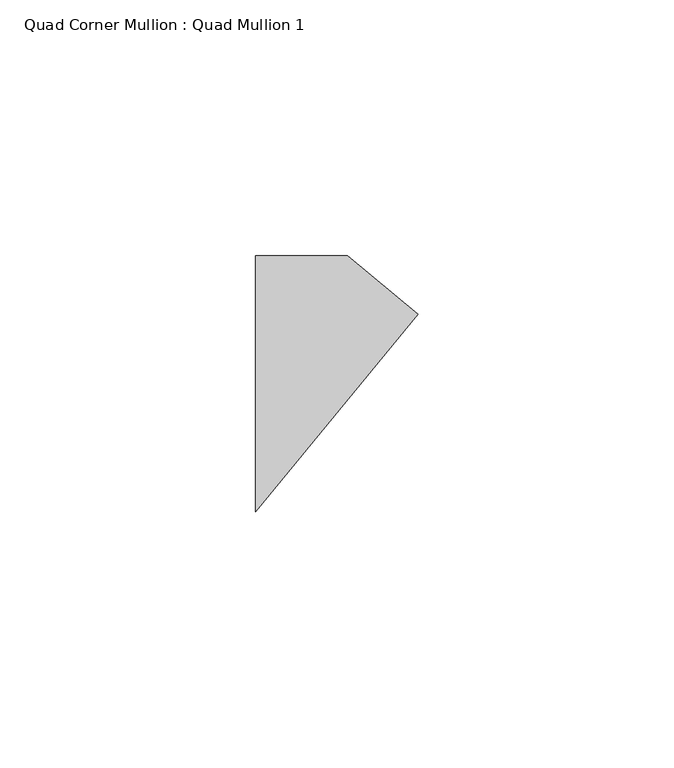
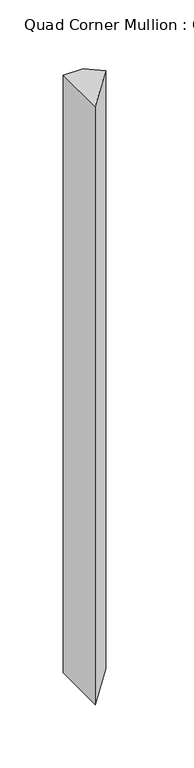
"""IFC4 building model written with IfcOpenShell, lengths in millimetres: member geometry, Quad Corner Mullion : Quad Mullion 1."""

import ifcopenshell
import ifcopenshell.guid

model = None  # the IFC model being written
_history = None  # IfcOwnerHistory: only IFC2X3 demands one
_inside = {}  # id of a spatial element -> (the spatial element, [elements in it])
_under = {}  # id of a project, library or spatial element -> (it, [spatial elements below it])
_declared = {}  # id of a project -> (the project, [libraries it declares])
_typed = {}  # id of a type object -> (the type object, [elements of that type])
_made_of = {}  # id of a material, layer set ... -> (it, [elements and type objects made of it])


def new_model(schema):
    """Start an empty IFC model of exactly this schema.

    Asked for "IFC4X3", IfcOpenShell would pick the latest addendum, in which some entities
    have other attributes; the version numbers below select the first issue.
    IFC2X3 requires an IfcOwnerHistory on every rooted entity: one is made here for all.
    """
    global model, _history
    if schema == "IFC4X3":
        model = ifcopenshell.file(schema_version=(4, 3, 0, 0))
    else:
        model = ifcopenshell.file(schema=schema)
    _inside.clear()
    _under.clear()
    _declared.clear()
    _typed.clear()
    _made_of.clear()
    _history = None
    if model.schema == "IFC2X3":
        org = make("IfcOrganization", Name="unknown")
        user = make(
            "IfcPersonAndOrganization",
            ThePerson=make("IfcPerson", FamilyName="unknown"),
            TheOrganization=org,
        )
        app = make(
            "IfcApplication",
            ApplicationDeveloper=org,
            Version="unknown",
            ApplicationFullName="unknown",
            ApplicationIdentifier="unknown",
        )
        _history = make(
            "IfcOwnerHistory",
            OwningUser=user,
            OwningApplication=app,
            ChangeAction="ADDED",
            CreationDate=0,
        )
    return model


def make(cls, **values):
    """One entity of the class cls with the attributes given. An attribute that is None is left unset."""
    return model.create_entity(
        cls, **{name: value for name, value in values.items() if value is not None}
    )


def rooted(cls, **values):
    """An entity with a GlobalId (a new one), such as an element, a storey or a relation."""
    return make(cls, GlobalId=ifcopenshell.guid.new(), OwnerHistory=_history, **values)


def si_unit(unit_type, name, prefix=None):
    """IfcSIUnit, for example si_unit("LENGTHUNIT", "METRE", prefix="MILLI")."""
    return make("IfcSIUnit", UnitType=unit_type, Prefix=prefix, Name=name)


def assignment(units):
    """IfcUnitAssignment: the units of a project."""
    return None if units is None else make("IfcUnitAssignment", Units=units)


def point(xyz):
    """IfcCartesianPoint."""
    return None if xyz is None else make("IfcCartesianPoint", Coordinates=xyz)


def direction(xyz):
    """IfcDirection."""
    return None if xyz is None else make("IfcDirection", DirectionRatios=xyz)


def frame(location, z_axis=None, x_axis=None):
    """IfcAxis2Placement3D, a coordinate frame: its origin and axes. An axis left out is left unset."""
    return make(
        "IfcAxis2Placement3D",
        Location=point(location),
        Axis=direction(z_axis),
        RefDirection=direction(x_axis),
    )


def origin():
    """The frame at (0, 0, 0) with its axes left unset."""
    return frame((0.0, 0.0, 0.0))


def place(relative_to, where):
    """IfcLocalPlacement: puts the frame where relative to a parent placement (None: the world)."""
    return make(
        "IfcLocalPlacement", PlacementRelTo=relative_to, RelativePlacement=where
    )


def context(
    kind, dimensions, precision=None, world=None, true_north=None, identifier=None
):
    """IfcGeometricRepresentationContext, for example the 3D "Model" context."""
    return make(
        "IfcGeometricRepresentationContext",
        ContextIdentifier=identifier,
        ContextType=kind,
        CoordinateSpaceDimension=dimensions,
        Precision=precision,
        WorldCoordinateSystem=world,
        TrueNorth=true_north,
    )


def project(units=None, contexts=None):
    """IfcProject with its units and contexts."""
    return rooted(
        "IfcProject",
        Name="project",
        RepresentationContexts=contexts,
        UnitsInContext=assignment(units),
    )


def spatial(cls, under=None, at=None, **own):
    """A site, building, storey or space (cls), placed at a placement, below another one or the project."""
    s = rooted(cls, ObjectPlacement=at, **own)
    if under is not None:
        _under.setdefault(under.id(), (under, []))[1].append(s)
    return s


def polyline(points):
    """IfcPolyline through the points."""
    return make("IfcPolyline", Points=[point(p) for p in points])


def outline(outer, holes=None, kind="AREA"):
    """IfcArbitraryClosedProfileDef: a profile drawn as a closed curve; with holes, ...WithVoids."""
    if holes is None:
        return make("IfcArbitraryClosedProfileDef", ProfileType=kind, OuterCurve=outer)
    return make(
        "IfcArbitraryProfileDefWithVoids",
        ProfileType=kind,
        OuterCurve=outer,
        InnerCurves=holes,
    )


def extrude(swept, where, along, depth):
    """IfcExtrudedAreaSolid: the profile swept, set in the frame where, extruded along a direction by depth."""
    return make(
        "IfcExtrudedAreaSolid",
        SweptArea=swept,
        Position=where,
        ExtrudedDirection=direction(along),
        Depth=depth,
    )


def shape(context_of_items, identifier, shape_type, items):
    """IfcShapeRepresentation: the items that make up one representation, for example the "Body"."""
    return make(
        "IfcShapeRepresentation",
        ContextOfItems=context_of_items,
        RepresentationIdentifier=identifier,
        RepresentationType=shape_type,
        Items=items,
    )


def source(mapping_origin, context_of_items, identifier, shape_type, items):
    """IfcRepresentationMap: a shape defined once, which mapped items show again and again."""
    return make(
        "IfcRepresentationMap",
        MappingOrigin=mapping_origin,
        MappedRepresentation=shape(context_of_items, identifier, shape_type, items),
    )


def transform(
    local_origin,
    x_axis=None,
    y_axis=None,
    z_axis=None,
    scale=None,
    scale2=None,
    scale3=None,
    uniform=True,
):
    """IfcCartesianTransformationOperator3D, or its non-uniform kind. x_axis, y_axis, z_axis: its Axis1, 2, 3."""
    if uniform:
        return make(
            "IfcCartesianTransformationOperator3D",
            Axis1=direction(x_axis),
            Axis2=direction(y_axis),
            LocalOrigin=point(local_origin),
            Scale=scale,
            Axis3=direction(z_axis),
        )
    return make(
        "IfcCartesianTransformationOperator3DnonUniform",
        Axis1=direction(x_axis),
        Axis2=direction(y_axis),
        LocalOrigin=point(local_origin),
        Scale=scale,
        Axis3=direction(z_axis),
        Scale2=scale2,
        Scale3=scale3,
    )


def mapped(mapping_source, mapping_target):
    """IfcMappedItem: shows the shape of a source again, moved by a transform."""
    return make(
        "IfcMappedItem", MappingSource=mapping_source, MappingTarget=mapping_target
    )


def made_of(thing, what):
    """Note that an element or type object is made of a material, layer set ...; save() writes the relation."""
    if what is not None:
        _made_of.setdefault(what.id(), (what, []))[1].append(thing)
    return thing


def element(
    cls,
    number,
    at=None,
    inside=None,
    cuts=None,
    type_object=None,
    material=None,
    context=None,
    identifier="Body",
    shape_type=None,
    held_by="IfcProductDefinitionShape",
    body=None,
    shapes=None,
    **own,
):
    """One element of the class cls, such as IfcWall. Its Tag is "e" and its number.

    at: its placement. inside: the storey or other place that contains it. cuts: it is an
    opening in that element (IfcRelVoidsElement). A single representation is given by context,
    identifier, shape_type and body (its items); several are given by shapes. held_by: the class
    of the entity that holds the representations. save() writes the other relations.
    """
    e = rooted(cls, Tag="e%d" % number, ObjectPlacement=at, **own)
    if body is not None:
        shapes = [shape(context, identifier, shape_type, body)]
    if shapes is not None:
        e.Representation = make(held_by, Representations=shapes)
    if inside is not None:
        _inside.setdefault(inside.id(), (inside, []))[1].append(e)
    if cuts is not None:
        rooted(
            "IfcRelVoidsElement", RelatingBuildingElement=cuts, RelatedOpeningElement=e
        )
    if type_object is not None:
        _typed.setdefault(type_object.id(), (type_object, []))[1].append(e)
    return made_of(e, material)


def aggregate(whole, parts):
    """IfcRelAggregates: a whole, such as a stair, and the parts it consists of."""
    return rooted("IfcRelAggregates", RelatingObject=whole, RelatedObjects=parts)


def save(model, path):
    """Write the relations noted so far, then the file.

    IfcRelAggregates (storeys below a building ...), IfcRelContainedInSpatialStructure (elements
    in a storey), IfcRelDefinesByType, IfcRelAssociatesMaterial and IfcRelDeclares: one each for
    every whole, place, type object, material and project.
    """
    for whole, parts in _under.values():
        aggregate(whole, parts)
    for where, things in _inside.values():
        rooted(
            "IfcRelContainedInSpatialStructure",
            RelatedElements=things,
            RelatingStructure=where,
        )
    for kind, things in _typed.values():
        rooted("IfcRelDefinesByType", RelatedObjects=things, RelatingType=kind)
    for what, things in _made_of.values():
        rooted("IfcRelAssociatesMaterial", RelatedObjects=things, RelatingMaterial=what)
    for by, libraries in _declared.values():
        rooted("IfcRelDeclares", RelatingContext=by, RelatedDefinitions=libraries)
    model.write(path)


def quad_corner_mullion_quad_mullion_1_9b3809bd(model_context):
    return source(origin(), model_context, "Body", "SweptSolid", [
        extrude(outline(polyline([(22.8068923, 13.6086231), (-8.963758, -25.0), (-8.963758, 25.0), (8.963758, 25.0), (22.8068923, 13.6086231)])), frame((0.0, 0.0, -575.0), z_axis=(0.0, 0.0, 1.0), x_axis=(1.0, 0.0, 0.0)), (0.0, 0.0, 1.0), 575.0),
    ])


if __name__ == "__main__":
    model = new_model("IFC4")
    model_context = context("Model", 3, world=origin())
    ifc_project = project(units=[si_unit("LENGTHUNIT", "METRE", prefix="MILLI")], contexts=[model_context])
    site = spatial("IfcSite", under=ifc_project)
    building = spatial("IfcBuilding", under=site)
    placement = place(None, origin())
    quad_corner_mullion_quad_mullion_1_shape = quad_corner_mullion_quad_mullion_1_9b3809bd(model_context)
    element("IfcMember", 1, ObjectType="Quad Corner Mullion : Quad Mullion 1", at=placement, inside=building, context=model_context, shape_type="MappedRepresentation", body=[
        mapped(quad_corner_mullion_quad_mullion_1_shape, transform((0.0, 0.0, 0.0), x_axis=(1.0, 0.0, 0.0), y_axis=(0.0, 1.0, 0.0), z_axis=(0.0, 0.0, 1.0))),
    ])
    save(model, "model.ifc")
